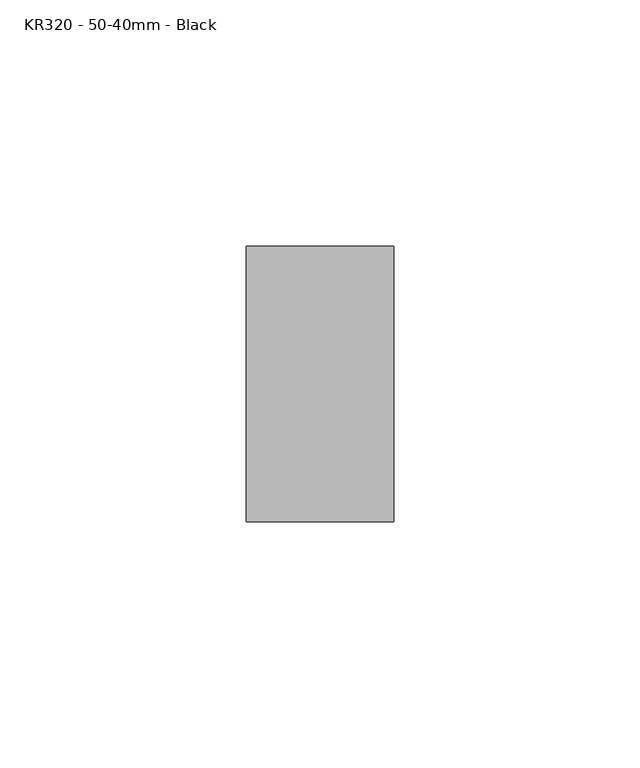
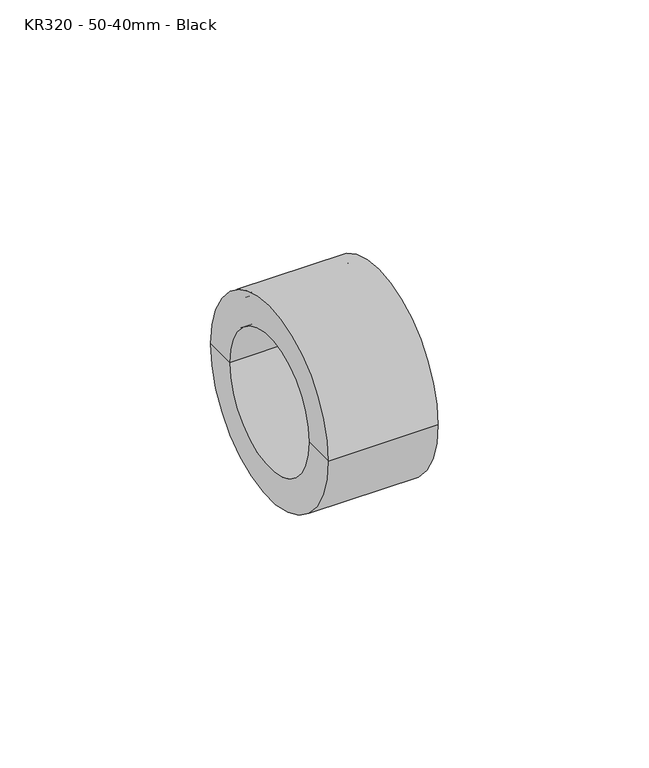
"""IFC4 building model written with IfcOpenShell, lengths in millimetres: pipe fitting geometry, MarleyPlumbingAndDrainage_PipeFitting_SocketReducer : KR320 - 50-40mm - Black."""

from ifc_helpers import new_model, si_unit, frame, origin, place, context, project, spatial, polyline, circle_curve, source, transform, mapped, element, save
from ifc_brep_helpers import plane_surface, cylinder_surface, revolved_surface, advanced_brep


def kr320_50_40mm_black_520dc552(model_context):
    return source(origin(), model_context, "Body", "AdvancedBrep", [
        advanced_brep(
        [(-14.8253818, -25.5, 0.0), (-14.8253818, 25.5, 0.0), (-14.8253818, 21.5, 0.0), (-14.8253818, -21.5, 0.0), (12.6746182, -25.5, 0.0), (12.6746182, 25.5, 0.0), (12.6746182, -28.0, 0.0), (12.6746182, 28.0, 0.0), (-17.3253818, -28.0, 0.0), (-17.3253818, 28.0, 0.0), (-17.3253818, -19.0, 0.0), (-17.3253818, 19.0, 0.0), (2.6746182, -19.0, 0.0), (2.6746182, 19.0, 0.0), (2.6746182, -21.5, 0.0), (2.6746182, 21.5, 0.0)],
        [
            (0, 1, circle_curve(frame((-14.8253818, 0.0, 0.0), z_axis=(1.0, 0.0, 0.0), x_axis=(0.0, 1.0, 0.0)), 25.5)),
            (1, 2),
            (2, 3, circle_curve(frame((-14.8253818, 0.0, 0.0), z_axis=(-1.0, 0.0, 0.0), x_axis=(0.0, 1.0, 0.0)), 21.5)),
            (3, 0),
            (1, 0, circle_curve(frame((-14.8253818, 0.0, 0.0), z_axis=(1.0, 0.0, 0.0), x_axis=(0.0, 1.0, 0.0)), 25.5)),
            (3, 2, circle_curve(frame((-14.8253818, 0.0, 0.0), z_axis=(-1.0, 0.0, 0.0), x_axis=(0.0, 1.0, 0.0)), 21.5)),
            (4, 5, circle_curve(frame((12.6746182, 0.0, 0.0), z_axis=(1.0, 0.0, 0.0), x_axis=(0.0, 1.0, 0.0)), 25.5)),
            (5, 1),
            (0, 4),
            (5, 4, circle_curve(frame((12.6746182, 0.0, 0.0), z_axis=(1.0, 0.0, 0.0), x_axis=(0.0, 1.0, 0.0)), 25.5)),
            (6, 7, circle_curve(frame((12.6746182, 0.0, 0.0), z_axis=(1.0, 0.0, 0.0), x_axis=(0.0, 1.0, 0.0)), 28.0)),
            (7, 5),
            (4, 6),
            (7, 6, circle_curve(frame((12.6746182, 0.0, 0.0), z_axis=(1.0, 0.0, 0.0), x_axis=(0.0, 1.0, 0.0)), 28.0)),
            (8, 9, circle_curve(frame((-17.3253818, 0.0, 0.0), z_axis=(1.0, 0.0, 0.0), x_axis=(0.0, 1.0, 0.0)), 28.0)),
            (9, 7),
            (6, 8),
            (9, 8, circle_curve(frame((-17.3253818, 0.0, 0.0), z_axis=(1.0, 0.0, 0.0), x_axis=(0.0, 1.0, 0.0)), 28.0)),
            (10, 11, circle_curve(frame((-17.3253818, 0.0, 0.0), z_axis=(1.0, 0.0, 0.0), x_axis=(0.0, 1.0, 0.0)), 19.0)),
            (11, 9),
            (8, 10),
            (11, 10, circle_curve(frame((-17.3253818, 0.0, 0.0), z_axis=(1.0, 0.0, 0.0), x_axis=(0.0, 1.0, 0.0)), 19.0)),
            (12, 13, circle_curve(frame((2.6746182, 0.0, 0.0), z_axis=(1.0, 0.0, 0.0), x_axis=(0.0, 1.0, 0.0)), 19.0)),
            (13, 11),
            (10, 12),
            (13, 12, circle_curve(frame((2.6746182, 0.0, 0.0), z_axis=(1.0, 0.0, 0.0), x_axis=(0.0, 1.0, 0.0)), 19.0)),
            (14, 15, circle_curve(frame((2.6746182, 0.0, 0.0), z_axis=(1.0, 0.0, 0.0), x_axis=(0.0, 1.0, 0.0)), 21.5)),
            (15, 13),
            (12, 14),
            (15, 14, circle_curve(frame((2.6746182, 0.0, 0.0), z_axis=(1.0, 0.0, 0.0), x_axis=(0.0, 1.0, 0.0)), 21.5)),
            (2, 15),
            (14, 3),
        ],
        [
            plane_surface(frame((-14.8253818, 0.0, 0.0), z_axis=(1.0, 0.0, 0.0), x_axis=(0.0, 1.0, 0.0))),
            revolved_surface(polyline([(-14.82538180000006, 25.5, 0.0), (12.67461819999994, 25.5, 0.0)]), (2016.5, 0.0, 0.0), (-1.0, 0.0, 0.0)),
            plane_surface(frame((12.6746182, 0.0, 0.0), z_axis=(1.0, 0.0, 0.0), x_axis=(0.0, 1.0, 0.0))),
            cylinder_surface(frame((2016.5, 0.0, 0.0), z_axis=(-1.0, 0.0, 0.0), x_axis=(0.0, 1.0, 0.0)), 28.0),
            plane_surface(frame((-17.3253818, 0.0, 0.0), z_axis=(-1.0, 0.0, 0.0), x_axis=(0.0, 1.0, 0.0))),
            revolved_surface(polyline([(-17.32538180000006, 19.0, 0.0), (2.6746181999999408, 19.0, 0.0)]), (2016.5, 0.0, 0.0), (-1.0, 0.0, 0.0)),
            plane_surface(frame((2.6746182, 0.0, 0.0), z_axis=(1.0, 0.0, 0.0), x_axis=(0.0, 1.0, 0.0))),
            cylinder_surface(frame((2016.5, 0.0, 0.0), z_axis=(-1.0, 0.0, 0.0), x_axis=(0.0, 1.0, 0.0)), 21.5),
        ],
        [
            (0, [[1, 2, 3, 4]]),
            (0, [[5, -4, 6, -2]]),
            (1, [[7, 8, -1, 9]]),
            (1, [[10, -9, -5, -8]]),
            (2, [[11, 12, -7, 13]]),
            (2, [[14, -13, -10, -12]]),
            (3, [[15, 16, -11, 17]]),
            (3, [[18, -17, -14, -16]]),
            (4, [[19, 20, -15, 21]]),
            (4, [[22, -21, -18, -20]]),
            (5, [[23, 24, -19, 25]]),
            (5, [[26, -25, -22, -24]]),
            (6, [[27, 28, -23, 29]]),
            (6, [[30, -29, -26, -28]]),
            (7, [[-3, 31, -27, 32]]),
            (7, [[-6, -32, -30, -31]]),
        ],
    ),
    ])


if __name__ == "__main__":
    model = new_model("IFC4")
    model_context = context("Model", 3, world=origin())
    ifc_project = project(units=[si_unit("LENGTHUNIT", "METRE", prefix="MILLI")], contexts=[model_context])
    site = spatial("IfcSite", under=ifc_project)
    building = spatial("IfcBuilding", under=site)
    placement = place(None, origin())
    kr320_50_40mm_black_shape = kr320_50_40mm_black_520dc552(model_context)
    element("IfcPipeFitting", 1, ObjectType="MarleyPlumbingAndDrainage_PipeFitting_SocketReducer : KR320 - 50-40mm - Black", at=placement, inside=building, context=model_context, shape_type="MappedRepresentation", body=[
        mapped(kr320_50_40mm_black_shape, transform((0.0, 0.0, 0.0), x_axis=(1.0, 0.0, 0.0), y_axis=(0.0, 1.0, 0.0), z_axis=(0.0, 0.0, 1.0))),
    ])
    save(model, "model.ifc")
